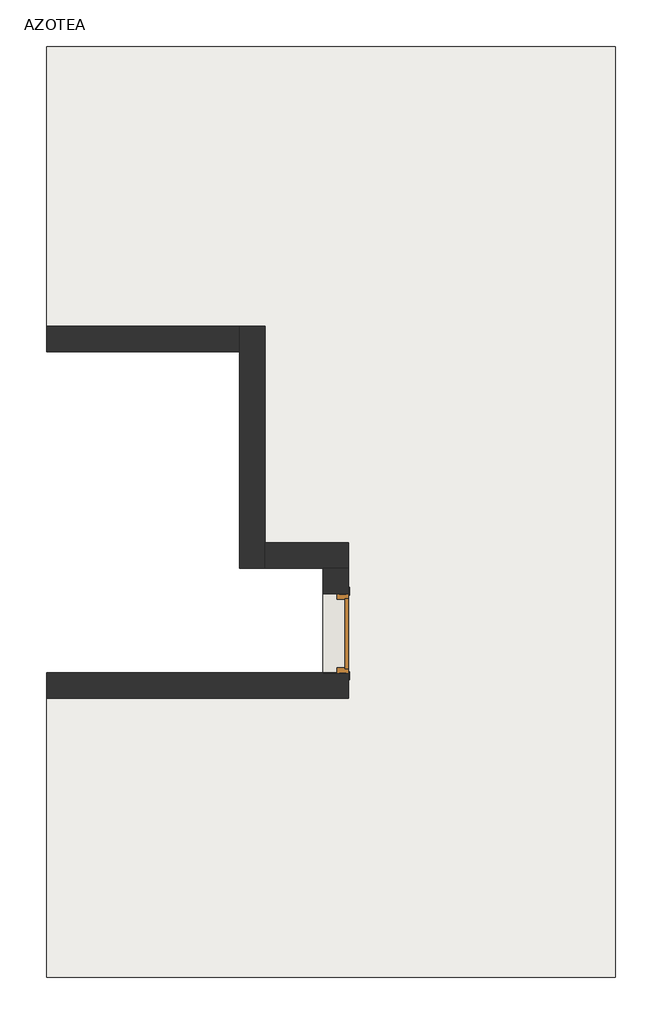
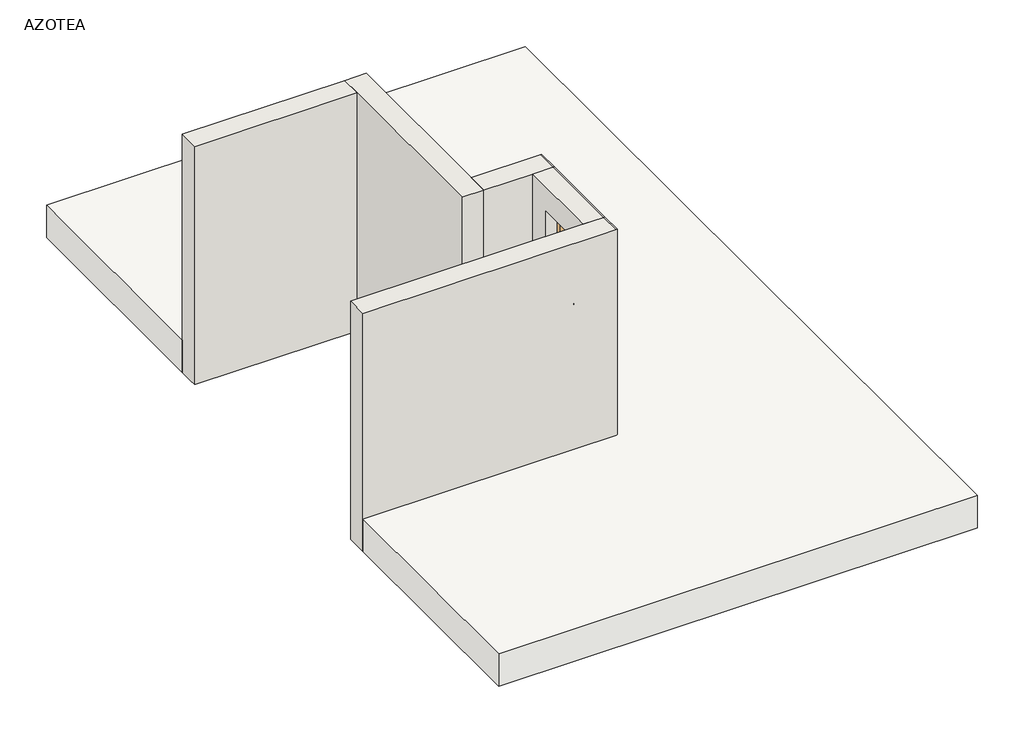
# One storey: 5 walls, 1 door, 1 roof.
"""IFC4 building model written with IfcOpenShell, lengths in millimetres."""

from ifc_helpers import new_model, si_unit, frame, origin, place, context, project, spatial, polyline, outline, extrude, faceted_brep, transform, mapped, element, save
from components import door_800_x_2100mm_72a88144

model = new_model("IFC4")

# Units and contexts
model_context = context("Model", 3, world=origin())
ifc_project = project(units=[si_unit("LENGTHUNIT", "METRE", prefix="MILLI")], contexts=[model_context])

# Site, building, storey
site = spatial("IfcSite", under=ifc_project)
building = spatial("IfcBuilding", under=site)
storey = spatial("IfcBuildingStorey", under=building, Name="AZOTEA", Elevation=10000.0)

# Door
placement = place(None, origin())
door_800_x_2100mm_shape = door_800_x_2100mm_72a88144(model_context)
element("IfcDoor", 1, ObjectType="Puerta mmetálica : 800 x 2100mm", at=placement, inside=storey, context=model_context, shape_type="MappedRepresentation", body=[
    mapped(door_800_x_2100mm_shape, transform((-4061.4609461, -12395.4974399, 10600.0), x_axis=(0.0, -1.0, 0.0), y_axis=(1.0, 0.0, 0.0), z_axis=(0.0, 0.0, 1.0))),
])

# Roof
element("IfcRoof", 2, ObjectType="Cubierta", at=placement, inside=storey, context=model_context, shape_type="SweptSolid", body=[
    extrude(outline(polyline([(-6960.2380085, -6516.7945269), (-1259.1530766, -6516.7945269), (-1259.1530766, -15838.1457931), (-6960.2380085, -15838.1457931), (-6960.2380085, -13040.2974399), (-3943.6811043, -13040.2974399), (-3943.6811043, -11487.7974399), (-4772.4530766, -11487.7974399), (-4772.4530766, -9318.4505332), (-6960.2380085, -9318.4505332), (-6960.2380085, -6516.7945269)])), frame((0.0, 0.0, 10000.0), z_axis=(0.0, 0.0, 1.0), x_axis=(1.0, 0.0, 0.0)), (0.0, 0.0, 1.0), 410.0),
])

# Walls
element("IfcWall", 3, ObjectType="Muro Fachada", at=placement, inside=storey, context=model_context, shape_type="Brep", body=[
    faceted_brep([(-6960.2380085, -9573.4505332, 10000.0), (-5027.4530766, -9573.4505332, 10000.0), (-5027.4530766, -9573.4505332, 13000.0), (-6960.2380085, -9573.4505332, 13000.0), (-6960.2380085, -9318.4505332, 10000.0), (-6960.2380085, -9318.4505332, 11400.0), (-6960.2380085, -9318.4505332, 13000.0), (-5027.4530766, -9318.4505332, 13000.0), (-5027.4530766, -9318.4505332, 10000.0), (-6909.4740076, -9318.4505332, 10000.0), (-6960.2380085, -9482.9701634, 10000.0)], [[[0, 1, 2, 3]], [[4, 5, 6, 7, 8, 9]], [[1, 0, 10, 4, 9, 8]], [[3, 2, 7, 6]], [[0, 3, 6, 5, 4, 10]], [[2, 1, 8, 7]]]),
])
element("IfcWall", 4, ObjectType="Muro Fachada", at=placement, inside=storey, context=model_context, shape_type="Brep", body=[
    faceted_brep([(-5027.4530766, -9317.7974399, 10000.0), (-5027.4530766, -9318.4505332, 10000.0), (-5027.4530766, -9573.4505332, 10000.0), (-5027.4530766, -11742.7974399, 10000.0), (-5027.4530766, -11742.7974399, 13000.0), (-5027.4530766, -9573.4505332, 13000.0), (-5027.4530766, -9318.4505332, 13000.0), (-5027.4530766, -9317.7974399, 13000.0), (-4772.4530766, -9317.7974399, 10000.0), (-4772.4530766, -9317.7974399, 13000.0), (-4772.4530766, -11487.7974399, 13000.0), (-4772.4530766, -11742.7974399, 13000.0), (-4772.4530766, -11742.7974399, 10000.0), (-4772.4530766, -11487.7974399, 10000.0)], [[[0, 1, 2, 3, 4, 5, 6, 7]], [[8, 9, 10, 11, 12, 13]], [[3, 2, 1, 0, 8, 13, 12]], [[0, 7, 9, 8]], [[7, 6, 5, 4, 11, 10, 9]], [[4, 3, 12, 11]]]),
])
element("IfcWall", 5, ObjectType="Muro Fachada", at=placement, inside=storey, context=model_context, shape_type="Brep", body=[
    faceted_brep([(-4772.4530766, -11742.7974399, 10000.0), (-4188.9609461, -11742.7974399, 10000.0), (-3933.9609461, -11742.7974399, 10000.0), (-3933.9609461, -11742.7974399, 13000.0), (-3945.818683, -11742.7974399, 13000.0), (-4188.9609461, -11742.7974399, 13000.0), (-4772.4530766, -11742.7974399, 13000.0), (-4772.4530766, -11487.7974399, 10000.0), (-4772.4530766, -11487.7974399, 13000.0), (-3945.818683, -11487.7974399, 13000.0), (-3933.9609461, -11487.7974399, 13000.0), (-3933.9609461, -11487.7974399, 10000.0)], [[[0, 1, 2, 3, 4, 5, 6]], [[7, 8, 9, 10, 11]], [[2, 1, 0, 7, 11]], [[4, 3, 10, 9]], [[6, 5, 4, 9, 8]], [[0, 6, 8, 7]], [[3, 2, 11, 10]]]),
])
element("IfcWall", 6, ObjectType="Muro Fachada", at=placement, inside=storey, context=model_context, shape_type="Brep", body=[
    faceted_brep([(-4188.9609461, -11742.7974399, 10000.0), (-4188.9609461, -12785.2974399, 10000.0), (-4188.9609461, -12785.2974399, 10600.0), (-4188.9609461, -11995.4974399, 10600.0), (-4188.9609461, -11995.4974399, 12700.0), (-4188.9609461, -12785.2974399, 12700.0), (-4188.9609461, -12785.2974399, 13000.0), (-4188.9609461, -11742.7974399, 13000.0), (-3933.9609461, -12785.2974399, 10000.0), (-3933.9609461, -11742.7974399, 10000.0), (-3933.9609461, -11742.7974399, 13000.0), (-3933.9609461, -12785.2974399, 13000.0), (-3933.9609461, -12785.2974399, 12700.0), (-3933.9609461, -11995.4974399, 12700.0), (-3933.9609461, -11995.4974399, 10600.0), (-3933.9609461, -12785.2974399, 10600.0), (-3945.818683, -11742.7974399, 13000.0), (-3945.818683, -12785.2974399, 13000.0)], [[[0, 1, 2, 3, 4, 5, 6, 7]], [[8, 9, 10, 11, 12, 13, 14, 15]], [[1, 0, 9, 8]], [[4, 13, 12, 5]], [[13, 4, 3, 14]], [[14, 3, 2, 15]], [[11, 10, 16, 17]], [[7, 6, 17, 16]], [[0, 7, 16, 10, 9]], [[1, 8, 15, 2]], [[11, 17, 6, 5, 12]]]),
])
element("IfcWall", 7, ObjectType="Muro Fachada", at=placement, inside=storey, context=model_context, shape_type="Brep", body=[
    faceted_brep([(-3933.9609461, -12785.2974399, 10000.0), (-4188.9609461, -12785.2974399, 10000.0), (-6960.2380085, -12785.2974399, 10000.0), (-6960.2380085, -12785.2974399, 13000.0), (-4188.9609461, -12785.2974399, 13000.0), (-3945.818683, -12785.2974399, 13000.0), (-3933.9609461, -12785.2974399, 13000.0), (-3933.9609461, -12785.2974399, 12700.0), (-4188.9609461, -12785.2974399, 12700.0), (-4188.9609461, -12785.2974399, 10600.0), (-3933.9609461, -12785.2974399, 10600.0), (-6960.2380085, -13040.2974399, 10000.0), (-6909.4740076, -13040.2974399, 10000.0), (-3933.9609461, -13040.2974399, 10000.0), (-3933.9609461, -13040.2974399, 13000.0), (-3945.818683, -13040.2974399, 13000.0), (-6960.2380085, -13040.2974399, 13000.0), (-6960.2380085, -13040.2974399, 11400.0), (-6960.2380085, -12830.9701634, 10000.0), (-4188.9609461, -12795.4974399, 12700.0), (-4188.9609461, -12795.4974399, 10600.0), (-3933.9609461, -12795.4974399, 12700.0), (-3933.9609461, -12795.4974399, 10600.0)], [[[0, 1, 2, 3, 4, 5, 6, 7, 8, 9, 10]], [[11, 12, 13, 14, 15, 16, 17]], [[2, 1, 0, 13, 12, 11, 18]], [[15, 14, 6, 5]], [[5, 4, 3, 16, 15]], [[3, 2, 18, 11, 17, 16]], [[19, 20, 9, 8]], [[20, 19, 21, 22]], [[21, 19, 8, 7]], [[20, 22, 10, 9]], [[6, 14, 13, 0, 10, 22, 21, 7]]]),
])

save(model, "model.ifc")
